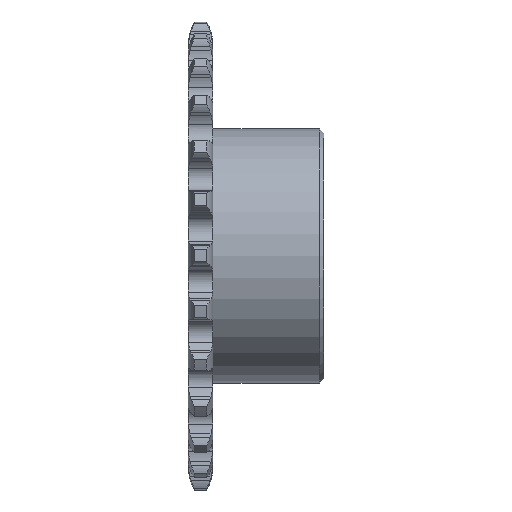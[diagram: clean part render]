
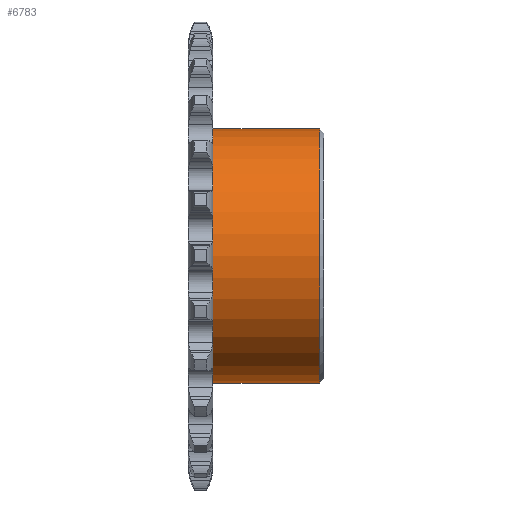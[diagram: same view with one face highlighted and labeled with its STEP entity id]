
A CAD part, top view. The second image highlights one B-rep face of the part: STEP entity #6783.
In plain terms, the highlighted cylindrical face has radius 15 mm (diameter 30 mm), a full revolution.
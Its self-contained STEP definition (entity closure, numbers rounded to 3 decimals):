
#689=CYLINDRICAL_SURFACE('',#7406,15.);
#1081=LINE('',#12866,#1475);
#1475=VECTOR('',#8999,15.);
#1831=FACE_OUTER_BOUND('',#2196,.T.);
#2196=EDGE_LOOP('',(#6281,#6282,#6283,#6284));
#2445=CIRCLE('',#7405,15.);
#2446=CIRCLE('',#7407,15.);
#3150=VERTEX_POINT('',#12861);
#3151=VERTEX_POINT('',#12864);
#4200=EDGE_CURVE('',#3150,#3150,#2445,.T.);
#4201=EDGE_CURVE('',#3151,#3151,#2446,.T.);
#4202=EDGE_CURVE('',#3151,#3150,#1081,.T.);
#6281=ORIENTED_EDGE('',*,*,#4201,.F.);
#6282=ORIENTED_EDGE('',*,*,#4202,.T.);
#6283=ORIENTED_EDGE('',*,*,#4200,.T.);
#6284=ORIENTED_EDGE('',*,*,#4202,.F.);
#6783=ADVANCED_FACE('',(#1831),#689,.T.);
#7405=AXIS2_PLACEMENT_3D('',#12862,#8993,#8994);
#7406=AXIS2_PLACEMENT_3D('',#12863,#8995,#8996);
#7407=AXIS2_PLACEMENT_3D('',#12865,#8997,#8998);
#8993=DIRECTION('center_axis',(1.,0.,0.));
#8994=DIRECTION('ref_axis',(0.,0.,-1.));
#8995=DIRECTION('center_axis',(1.,0.,0.));
#8996=DIRECTION('ref_axis',(0.,1.,0.));
#8997=DIRECTION('center_axis',(1.,0.,0.));
#8998=DIRECTION('ref_axis',(0.,0.,-1.));
#8999=DIRECTION('',(-1.,0.,0.));
#12861=CARTESIAN_POINT('',(2.9,-15.,0.));
#12862=CARTESIAN_POINT('Origin',(2.9,0.,0.));
#12863=CARTESIAN_POINT('Origin',(9.2,0.,0.));
#12864=CARTESIAN_POINT('',(15.5,-15.,0.));
#12865=CARTESIAN_POINT('Origin',(15.5,0.,0.));
#12866=CARTESIAN_POINT('',(9.2,-15.,0.));
